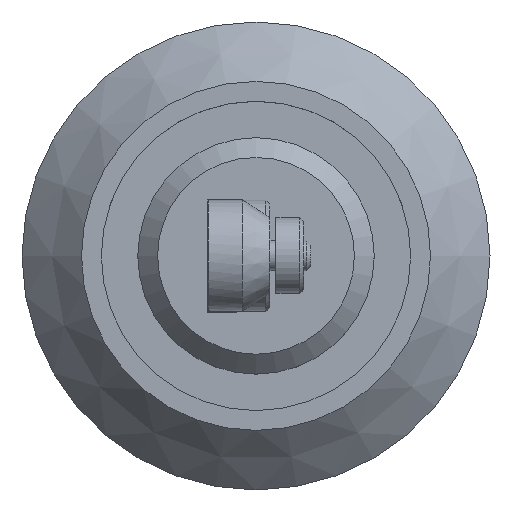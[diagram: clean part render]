
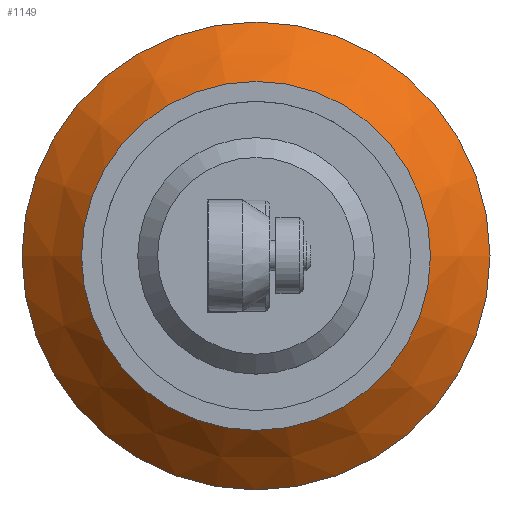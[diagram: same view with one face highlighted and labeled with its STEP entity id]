
A CAD part, top view. The second image highlights one B-rep face of the part: STEP entity #1149.
In plain terms, the highlighted conical face has half-angle 45 degrees and reference radius 51.5 mm.
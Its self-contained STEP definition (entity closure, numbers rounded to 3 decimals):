
#127=CIRCLE('',#1299,44.);
#128=CIRCLE('',#1300,59.);
#142=CONICAL_SURFACE('',#1298,51.5,0.785);
#207=FACE_OUTER_BOUND('',#301,.T.);
#301=EDGE_LOOP('',(#1000,#1001,#1002,#1003));
#396=LINE('',#1974,#484);
#484=VECTOR('',#1638,51.5);
#580=VERTEX_POINT('',#1971);
#581=VERTEX_POINT('',#1973);
#723=EDGE_CURVE('',#580,#580,#127,.T.);
#724=EDGE_CURVE('',#580,#581,#396,.T.);
#725=EDGE_CURVE('',#581,#581,#128,.T.);
#1000=ORIENTED_EDGE('',*,*,#723,.T.);
#1001=ORIENTED_EDGE('',*,*,#724,.T.);
#1002=ORIENTED_EDGE('',*,*,#725,.F.);
#1003=ORIENTED_EDGE('',*,*,#724,.F.);
#1149=ADVANCED_FACE('',(#207),#142,.T.);
#1298=AXIS2_PLACEMENT_3D('',#1970,#1634,#1635);
#1299=AXIS2_PLACEMENT_3D('',#1972,#1636,#1637);
#1300=AXIS2_PLACEMENT_3D('',#1975,#1639,#1640);
#1634=DIRECTION('center_axis',(0.,0.,-1.));
#1635=DIRECTION('ref_axis',(1.,0.,0.));
#1636=DIRECTION('center_axis',(0.,0.,-1.));
#1637=DIRECTION('ref_axis',(1.,0.,0.));
#1638=DIRECTION('',(-0.707,0.,-0.707));
#1639=DIRECTION('center_axis',(0.,0.,-1.));
#1640=DIRECTION('ref_axis',(1.,0.,0.));
#1970=CARTESIAN_POINT('Origin',(-5.,0.114,-132.55));
#1971=CARTESIAN_POINT('',(-49.,0.114,-125.05));
#1972=CARTESIAN_POINT('Origin',(-5.,0.114,-125.05));
#1973=CARTESIAN_POINT('',(-64.,0.114,-140.05));
#1974=CARTESIAN_POINT('',(-56.5,0.114,-132.55));
#1975=CARTESIAN_POINT('Origin',(-5.,0.114,-140.05));
